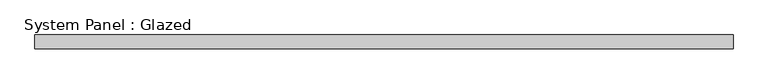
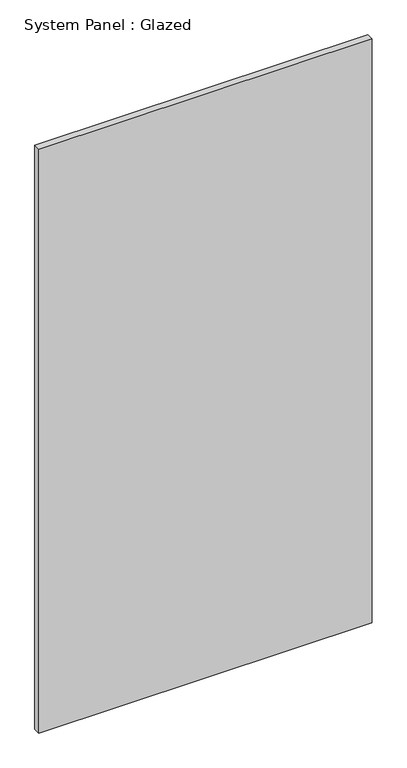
"""IFC4 building model written with IfcOpenShell, lengths in millimetres: plate geometry, System Panel : Glazed."""

import ifcopenshell
import ifcopenshell.guid

model = None  # the IFC model being written
_history = None  # IfcOwnerHistory: only IFC2X3 demands one
_inside = {}  # id of a spatial element -> (the spatial element, [elements in it])
_under = {}  # id of a project, library or spatial element -> (it, [spatial elements below it])
_declared = {}  # id of a project -> (the project, [libraries it declares])
_typed = {}  # id of a type object -> (the type object, [elements of that type])
_made_of = {}  # id of a material, layer set ... -> (it, [elements and type objects made of it])


def new_model(schema):
    """Start an empty IFC model of exactly this schema.

    Asked for "IFC4X3", IfcOpenShell would pick the latest addendum, in which some entities
    have other attributes; the version numbers below select the first issue.
    IFC2X3 requires an IfcOwnerHistory on every rooted entity: one is made here for all.
    """
    global model, _history
    if schema == "IFC4X3":
        model = ifcopenshell.file(schema_version=(4, 3, 0, 0))
    else:
        model = ifcopenshell.file(schema=schema)
    _inside.clear()
    _under.clear()
    _declared.clear()
    _typed.clear()
    _made_of.clear()
    _history = None
    if model.schema == "IFC2X3":
        org = make("IfcOrganization", Name="unknown")
        user = make(
            "IfcPersonAndOrganization",
            ThePerson=make("IfcPerson", FamilyName="unknown"),
            TheOrganization=org,
        )
        app = make(
            "IfcApplication",
            ApplicationDeveloper=org,
            Version="unknown",
            ApplicationFullName="unknown",
            ApplicationIdentifier="unknown",
        )
        _history = make(
            "IfcOwnerHistory",
            OwningUser=user,
            OwningApplication=app,
            ChangeAction="ADDED",
            CreationDate=0,
        )
    return model


def make(cls, **values):
    """One entity of the class cls with the attributes given. An attribute that is None is left unset."""
    return model.create_entity(
        cls, **{name: value for name, value in values.items() if value is not None}
    )


def rooted(cls, **values):
    """An entity with a GlobalId (a new one), such as an element, a storey or a relation."""
    return make(cls, GlobalId=ifcopenshell.guid.new(), OwnerHistory=_history, **values)


def si_unit(unit_type, name, prefix=None):
    """IfcSIUnit, for example si_unit("LENGTHUNIT", "METRE", prefix="MILLI")."""
    return make("IfcSIUnit", UnitType=unit_type, Prefix=prefix, Name=name)


def assignment(units):
    """IfcUnitAssignment: the units of a project."""
    return None if units is None else make("IfcUnitAssignment", Units=units)


def point(xyz):
    """IfcCartesianPoint."""
    return None if xyz is None else make("IfcCartesianPoint", Coordinates=xyz)


def direction(xyz):
    """IfcDirection."""
    return None if xyz is None else make("IfcDirection", DirectionRatios=xyz)


def frame(location, z_axis=None, x_axis=None):
    """IfcAxis2Placement3D, a coordinate frame: its origin and axes. An axis left out is left unset."""
    return make(
        "IfcAxis2Placement3D",
        Location=point(location),
        Axis=direction(z_axis),
        RefDirection=direction(x_axis),
    )


def origin():
    """The frame at (0, 0, 0) with its axes left unset."""
    return frame((0.0, 0.0, 0.0))


def origin_with_axes():
    """The frame at (0, 0, 0) with the z axis (0, 0, 1) and the x axis (1, 0, 0) written out."""
    return frame((0.0, 0.0, 0.0), z_axis=(0.0, 0.0, 1.0), x_axis=(1.0, 0.0, 0.0))


def place(relative_to, where):
    """IfcLocalPlacement: puts the frame where relative to a parent placement (None: the world)."""
    return make(
        "IfcLocalPlacement", PlacementRelTo=relative_to, RelativePlacement=where
    )


def context(
    kind, dimensions, precision=None, world=None, true_north=None, identifier=None
):
    """IfcGeometricRepresentationContext, for example the 3D "Model" context."""
    return make(
        "IfcGeometricRepresentationContext",
        ContextIdentifier=identifier,
        ContextType=kind,
        CoordinateSpaceDimension=dimensions,
        Precision=precision,
        WorldCoordinateSystem=world,
        TrueNorth=true_north,
    )


def project(units=None, contexts=None):
    """IfcProject with its units and contexts."""
    return rooted(
        "IfcProject",
        Name="project",
        RepresentationContexts=contexts,
        UnitsInContext=assignment(units),
    )


def spatial(cls, under=None, at=None, **own):
    """A site, building, storey or space (cls), placed at a placement, below another one or the project."""
    s = rooted(cls, ObjectPlacement=at, **own)
    if under is not None:
        _under.setdefault(under.id(), (under, []))[1].append(s)
    return s


def polyline(points):
    """IfcPolyline through the points."""
    return make("IfcPolyline", Points=[point(p) for p in points])


def outline(outer, holes=None, kind="AREA"):
    """IfcArbitraryClosedProfileDef: a profile drawn as a closed curve; with holes, ...WithVoids."""
    if holes is None:
        return make("IfcArbitraryClosedProfileDef", ProfileType=kind, OuterCurve=outer)
    return make(
        "IfcArbitraryProfileDefWithVoids",
        ProfileType=kind,
        OuterCurve=outer,
        InnerCurves=holes,
    )


def extrude(swept, where, along, depth):
    """IfcExtrudedAreaSolid: the profile swept, set in the frame where, extruded along a direction by depth."""
    return make(
        "IfcExtrudedAreaSolid",
        SweptArea=swept,
        Position=where,
        ExtrudedDirection=direction(along),
        Depth=depth,
    )


def shape(context_of_items, identifier, shape_type, items):
    """IfcShapeRepresentation: the items that make up one representation, for example the "Body"."""
    return make(
        "IfcShapeRepresentation",
        ContextOfItems=context_of_items,
        RepresentationIdentifier=identifier,
        RepresentationType=shape_type,
        Items=items,
    )


def source(mapping_origin, context_of_items, identifier, shape_type, items):
    """IfcRepresentationMap: a shape defined once, which mapped items show again and again."""
    return make(
        "IfcRepresentationMap",
        MappingOrigin=mapping_origin,
        MappedRepresentation=shape(context_of_items, identifier, shape_type, items),
    )


def transform(
    local_origin,
    x_axis=None,
    y_axis=None,
    z_axis=None,
    scale=None,
    scale2=None,
    scale3=None,
    uniform=True,
):
    """IfcCartesianTransformationOperator3D, or its non-uniform kind. x_axis, y_axis, z_axis: its Axis1, 2, 3."""
    if uniform:
        return make(
            "IfcCartesianTransformationOperator3D",
            Axis1=direction(x_axis),
            Axis2=direction(y_axis),
            LocalOrigin=point(local_origin),
            Scale=scale,
            Axis3=direction(z_axis),
        )
    return make(
        "IfcCartesianTransformationOperator3DnonUniform",
        Axis1=direction(x_axis),
        Axis2=direction(y_axis),
        LocalOrigin=point(local_origin),
        Scale=scale,
        Axis3=direction(z_axis),
        Scale2=scale2,
        Scale3=scale3,
    )


def mapped(mapping_source, mapping_target):
    """IfcMappedItem: shows the shape of a source again, moved by a transform."""
    return make(
        "IfcMappedItem", MappingSource=mapping_source, MappingTarget=mapping_target
    )


def made_of(thing, what):
    """Note that an element or type object is made of a material, layer set ...; save() writes the relation."""
    if what is not None:
        _made_of.setdefault(what.id(), (what, []))[1].append(thing)
    return thing


def element(
    cls,
    number,
    at=None,
    inside=None,
    cuts=None,
    type_object=None,
    material=None,
    context=None,
    identifier="Body",
    shape_type=None,
    held_by="IfcProductDefinitionShape",
    body=None,
    shapes=None,
    **own,
):
    """One element of the class cls, such as IfcWall. Its Tag is "e" and its number.

    at: its placement. inside: the storey or other place that contains it. cuts: it is an
    opening in that element (IfcRelVoidsElement). A single representation is given by context,
    identifier, shape_type and body (its items); several are given by shapes. held_by: the class
    of the entity that holds the representations. save() writes the other relations.
    """
    e = rooted(cls, Tag="e%d" % number, ObjectPlacement=at, **own)
    if body is not None:
        shapes = [shape(context, identifier, shape_type, body)]
    if shapes is not None:
        e.Representation = make(held_by, Representations=shapes)
    if inside is not None:
        _inside.setdefault(inside.id(), (inside, []))[1].append(e)
    if cuts is not None:
        rooted(
            "IfcRelVoidsElement", RelatingBuildingElement=cuts, RelatedOpeningElement=e
        )
    if type_object is not None:
        _typed.setdefault(type_object.id(), (type_object, []))[1].append(e)
    return made_of(e, material)


def aggregate(whole, parts):
    """IfcRelAggregates: a whole, such as a stair, and the parts it consists of."""
    return rooted("IfcRelAggregates", RelatingObject=whole, RelatedObjects=parts)


def save(model, path):
    """Write the relations noted so far, then the file.

    IfcRelAggregates (storeys below a building ...), IfcRelContainedInSpatialStructure (elements
    in a storey), IfcRelDefinesByType, IfcRelAssociatesMaterial and IfcRelDeclares: one each for
    every whole, place, type object, material and project.
    """
    for whole, parts in _under.values():
        aggregate(whole, parts)
    for where, things in _inside.values():
        rooted(
            "IfcRelContainedInSpatialStructure",
            RelatedElements=things,
            RelatingStructure=where,
        )
    for kind, things in _typed.values():
        rooted("IfcRelDefinesByType", RelatedObjects=things, RelatingType=kind)
    for what, things in _made_of.values():
        rooted("IfcRelAssociatesMaterial", RelatedObjects=things, RelatingMaterial=what)
    for by, libraries in _declared.values():
        rooted("IfcRelDeclares", RelatingContext=by, RelatedDefinitions=libraries)
    model.write(path)


def system_panel_glazed_8dfcc79d(model_context):
    return source(origin(), model_context, "Body", "SweptSolid", [
        extrude(outline(polyline([(641.35, 19.05), (-641.35, 19.05), (-641.35, 44.45), (641.35, 44.45), (641.35, 19.05)])), origin_with_axes(), (0.0, 0.0, 1.0), 2374.9),
    ])


if __name__ == "__main__":
    model = new_model("IFC4")
    model_context = context("Model", 3, world=origin())
    ifc_project = project(units=[si_unit("LENGTHUNIT", "METRE", prefix="MILLI")], contexts=[model_context])
    site = spatial("IfcSite", under=ifc_project)
    building = spatial("IfcBuilding", under=site)
    placement = place(None, origin())
    system_panel_glazed_shape = system_panel_glazed_8dfcc79d(model_context)
    element("IfcPlate", 1, ObjectType="System Panel : Glazed", at=placement, inside=building, context=model_context, shape_type="MappedRepresentation", body=[
        mapped(system_panel_glazed_shape, transform((0.0, 0.0, 0.0), x_axis=(1.0, 0.0, 0.0), y_axis=(0.0, 1.0, 0.0), z_axis=(0.0, 0.0, 1.0))),
    ])
    save(model, "model.ifc")
